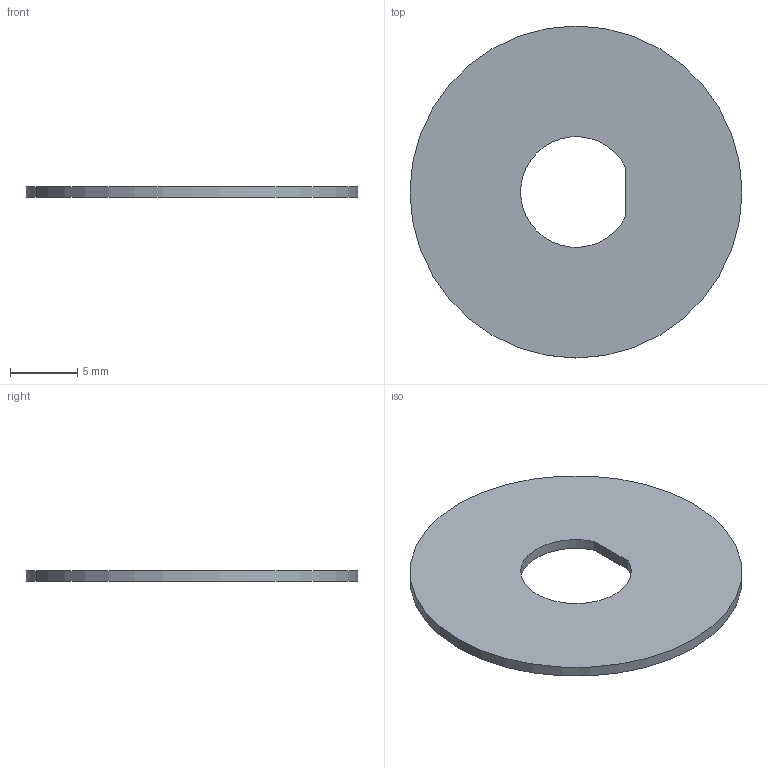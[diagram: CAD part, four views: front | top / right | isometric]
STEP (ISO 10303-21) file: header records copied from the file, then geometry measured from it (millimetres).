
FILE_DESCRIPTION(('Open CASCADE Model'),'2;1');
FILE_NAME('Open CASCADE Shape Model','2026-11-10T21:02:46',('Author'),( 'Open CASCADE'),'Open CASCADE STEP processor 7.9','Open CASCADE 7.9' ,'Unknown');
FILE_SCHEMA(('AUTOMOTIVE_DESIGN { 1 0 10303 214 1 1 1 1 }'));
Length unit declared in the file: millimetre
Products named in the file (1): Open CASCADE STEP translator 7.9 11
Bounding box: 24.6 x 24.6 x 0.8 mm (x, y, z)
Volume: 338.7 mm3; surface area: 929.2 mm2
Topology: 1 solids, 1 shells, 5 faces, 9 edges, 6 vertices
Faces by surface type: plane 3, cylinder 2
Full cylindrical faces by diameter (mm): 24.6 x1
Entity records: 256 total; most frequent: CARTESIAN_POINT 59, DIRECTION 33, ORIENTED_EDGE 18, PCURVE 18, DEFINITIONAL_REPRESENTATION 18, LINE 11, VECTOR 11, AXIS2_PLACEMENT_3D 10
